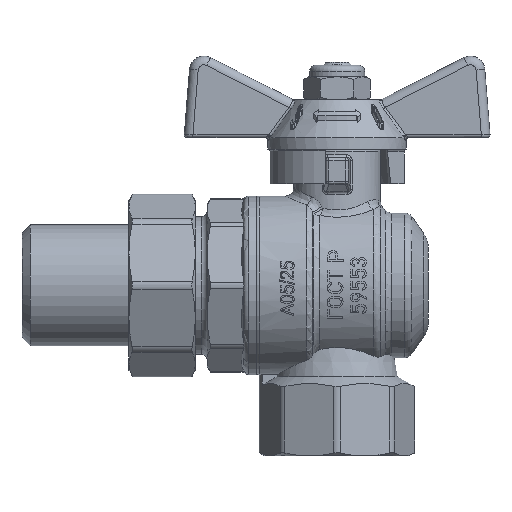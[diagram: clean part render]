
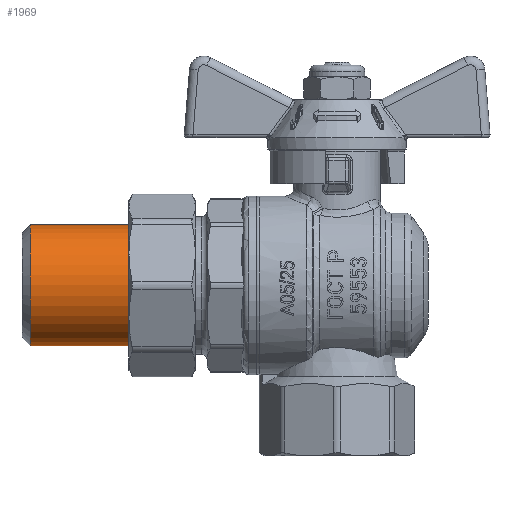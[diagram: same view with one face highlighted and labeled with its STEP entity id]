
A CAD part, left-side view. The second image highlights one B-rep face of the part: STEP entity #1969.
In plain terms, the highlighted cylindrical face has radius 10.477 mm (diameter 20.955 mm), a full revolution.
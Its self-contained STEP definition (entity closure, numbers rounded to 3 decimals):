
#1969=ADVANCED_FACE('',(#17420,#17422),#17424,.T.);
#17420=FACE_OUTER_BOUND('',#17421,.T.);
#17421=EDGE_LOOP('',(#28874));
#17422=FACE_OUTER_BOUND('',#17423,.T.);
#17423=EDGE_LOOP('',(#28875));
#17424=CYLINDRICAL_SURFACE('',#17425,10.478);
#17425=AXIS2_PLACEMENT_3D('',#17426,#17427,#17428);
#17426=CARTESIAN_POINT('',(0.,27.343,0.));
#17427=DIRECTION('',(0.,1.,0.));
#17428=DIRECTION('',(-1.,0.,0.));
#28874=ORIENTED_EDGE('',*,*,#34327,.F.);
#28875=ORIENTED_EDGE('',*,*,#34328,.F.);
#34327=EDGE_CURVE('',#43164,#43164,#43165,.T.);
#34328=EDGE_CURVE('',#43166,#43166,#43167,.F.);
#43164=VERTEX_POINT('',#74525);
#43165=CIRCLE('',#74526,10.478);
#43166=VERTEX_POINT('',#74530);
#43167=CIRCLE('',#74531,10.478);
#74525=CARTESIAN_POINT('',(-10.478,53.143,0.));
#74526=AXIS2_PLACEMENT_3D('',#74527,#74528,#74529);
#74527=CARTESIAN_POINT('',(0.,53.143,0.));
#74528=DIRECTION('',(0.,1.,0.));
#74529=DIRECTION('',(-1.,0.,0.));
#74530=CARTESIAN_POINT('',(-10.478,34.043,0.));
#74531=AXIS2_PLACEMENT_3D('',#74532,#74533,#74534);
#74532=CARTESIAN_POINT('',(0.,34.043,0.));
#74533=DIRECTION('',(0.,1.,0.));
#74534=DIRECTION('',(-1.,0.,0.));
